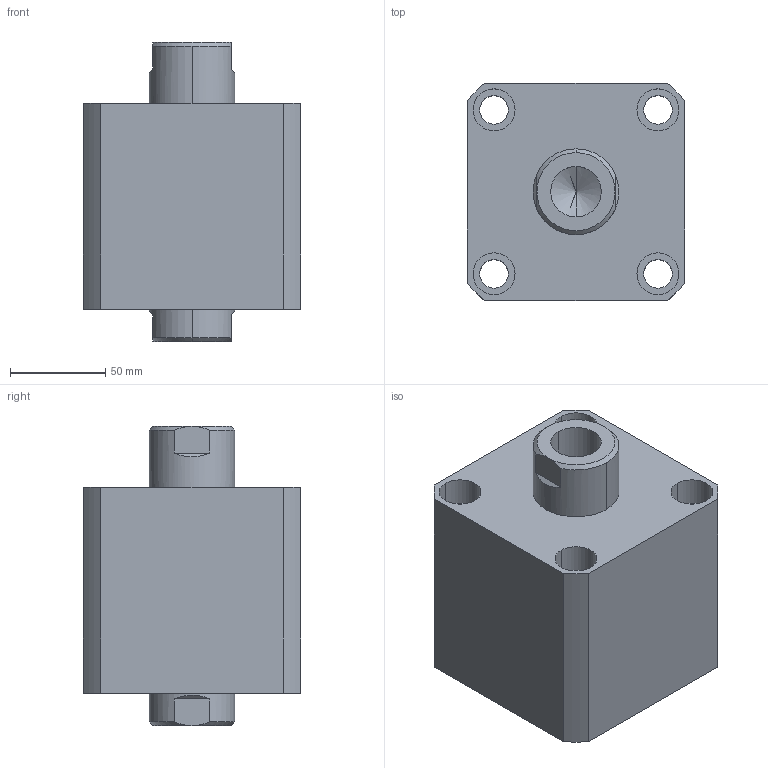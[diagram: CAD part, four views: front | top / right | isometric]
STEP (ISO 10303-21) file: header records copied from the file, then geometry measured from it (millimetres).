
FILE_DESCRIPTION (( 'STEP AP214' ), '1' );
FILE_NAME ('chtb-sw80x15n_asm.STEP', '2018-05-28T00:44:31', ( 'Windows' ), ( 'Microsoft' ), 'SwSTEP 2.0', 'SolidWorks 2015', '' );
FILE_SCHEMA (( 'AUTOMOTIVE_DESIGN' ));
Length unit declared in the file: millimetre
Products named in the file (4): CHTB-SW80X15NBT; CHTB-SD80X15NHSG; CHTB-SD80QG; chtb-sw80x15n_asm
Assembly tree (3 placements, depth 2):
  chtb-sw80x15n_asm
    CHTB-SD80QG
    CHTB-SD80X15NHSG
    CHTB-SW80X15NBT
Bounding box: 114 x 114 x 157 mm (x, y, z)
Volume: 1247046.2 mm3; surface area: 187100.4 mm2
Topology: 3 solids, 3 shells, 208 faces, 550 edges, 365 vertices
Faces by surface type: cylinder 109, plane 42, cone 25, torus 18, bspline 14
Entity records: 15645 total; most frequent: CARTESIAN_POINT 10539, ORIENTED_EDGE 1084, DIRECTION 970, EDGE_CURVE 542, AXIS2_PLACEMENT_3D 407, VERTEX_POINT 365, EDGE_LOOP 249, FACE_OUTER_BOUND 208
